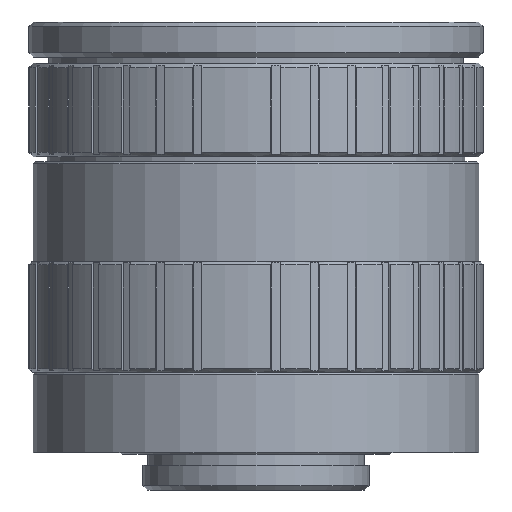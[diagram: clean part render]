
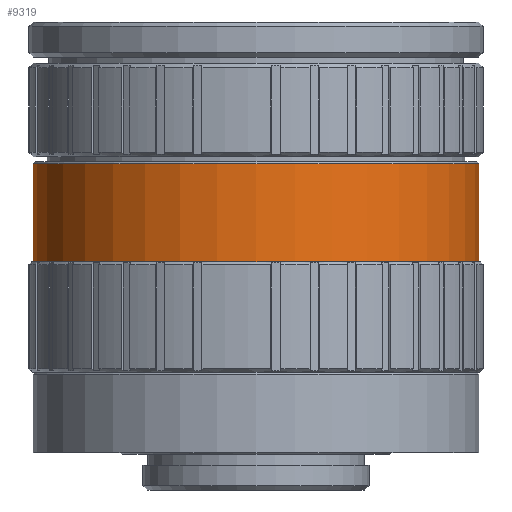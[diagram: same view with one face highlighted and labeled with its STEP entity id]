
A CAD part, front view. The second image highlights one B-rep face of the part: STEP entity #9319.
In plain terms, the highlighted cylindrical face has radius 25 mm (diameter 50 mm), a partial arc.
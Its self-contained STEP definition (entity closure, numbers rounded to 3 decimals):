
#25 = DIRECTION ( 'NONE',  ( 0., 0., 1. ) ) ;
#239 = DIRECTION ( 'NONE',  ( 0., 0., 1. ) ) ;
#647 = AXIS2_PLACEMENT_3D ( 'NONE', #11507, #6091, #8824 ) ;
#729 = DIRECTION ( 'NONE',  ( 0., 0., 1. ) ) ;
#1068 = LINE ( 'NONE', #5560, #10717 ) ;
#1370 = FACE_OUTER_BOUND ( 'NONE', #7999, .T. ) ;
#2248 = CARTESIAN_POINT ( 'NONE',  ( 25., 0., 32.63 ) ) ;
#3059 = CIRCLE ( 'NONE', #4243, 25. ) ;
#3060 = ORIENTED_EDGE ( 'NONE', *, *, #4022, .T. ) ;
#3116 = ORIENTED_EDGE ( 'NONE', *, *, #9086, .F. ) ;
#3275 = VERTEX_POINT ( 'NONE', #2248 ) ;
#3478 = ORIENTED_EDGE ( 'NONE', *, *, #4956, .T. ) ;
#3490 = VECTOR ( 'NONE', #729, 1000. ) ;
#3629 = CYLINDRICAL_SURFACE ( 'NONE', #647, 25. ) ;
#3747 = CARTESIAN_POINT ( 'NONE',  ( -25., 0., 32.63 ) ) ;
#4022 = EDGE_CURVE ( 'NONE', #8383, #7488, #3059, .T. ) ;
#4243 = AXIS2_PLACEMENT_3D ( 'NONE', #5827, #25, #6798 ) ;
#4618 = CARTESIAN_POINT ( 'NONE',  ( -25., 0., 37.226 ) ) ;
#4956 = EDGE_CURVE ( 'NONE', #7488, #3275, #1068, .T. ) ;
#5560 = CARTESIAN_POINT ( 'NONE',  ( 25., 0., 37.226 ) ) ;
#5827 = CARTESIAN_POINT ( 'NONE',  ( 0., 0., 21.6 ) ) ;
#6030 = CARTESIAN_POINT ( 'NONE',  ( 0., 0., 32.63 ) ) ;
#6045 = ORIENTED_EDGE ( 'NONE', *, *, #11591, .F. ) ;
#6091 = DIRECTION ( 'NONE',  ( 0., 0., 1. ) ) ;
#6778 = AXIS2_PLACEMENT_3D ( 'NONE', #6030, #239, #7009 ) ;
#6798 = DIRECTION ( 'NONE',  ( 1., 0., 0. ) ) ;
#7009 = DIRECTION ( 'NONE',  ( 1., 0., 0. ) ) ;
#7012 = VERTEX_POINT ( 'NONE', #3747 ) ;
#7488 = VERTEX_POINT ( 'NONE', #10827 ) ;
#7761 = CIRCLE ( 'NONE', #6778, 25. ) ;
#7999 = EDGE_LOOP ( 'NONE', ( #3116, #3060, #3478, #6045 ) ) ;
#8383 = VERTEX_POINT ( 'NONE', #11652 ) ;
#8419 = DIRECTION ( 'NONE',  ( 0., 0., 1. ) ) ;
#8824 = DIRECTION ( 'NONE',  ( 1., 0., 0. ) ) ;
#9086 = EDGE_CURVE ( 'NONE', #8383, #7012, #11190, .T. ) ;
#9319 = ADVANCED_FACE ( 'NONE', ( #1370 ), #3629, .T. ) ;
#10717 = VECTOR ( 'NONE', #8419, 1000. ) ;
#10827 = CARTESIAN_POINT ( 'NONE',  ( 25., 0., 21.6 ) ) ;
#11190 = LINE ( 'NONE', #4618, #3490 ) ;
#11507 = CARTESIAN_POINT ( 'NONE',  ( 0., 0., 37.226 ) ) ;
#11591 = EDGE_CURVE ( 'NONE', #7012, #3275, #7761, .T. ) ;
#11652 = CARTESIAN_POINT ( 'NONE',  ( -25., 0., 21.6 ) ) ;
